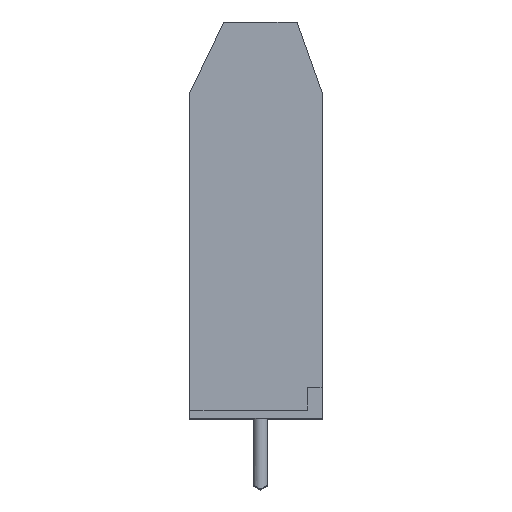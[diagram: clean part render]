
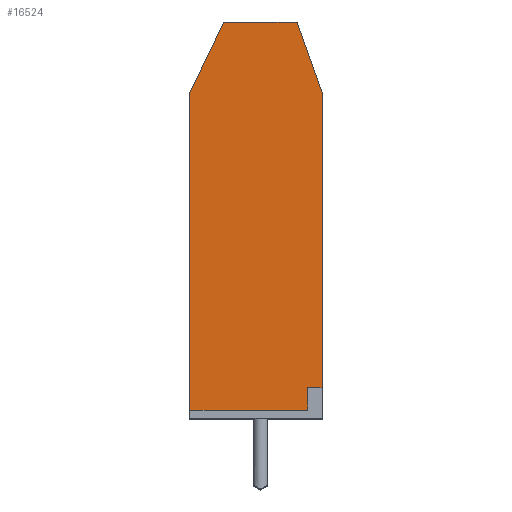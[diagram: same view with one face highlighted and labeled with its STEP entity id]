
A CAD part, top view. The second image highlights one B-rep face of the part: STEP entity #16524.
In plain terms, the highlighted planar face has unit normal (0, 0, 1).
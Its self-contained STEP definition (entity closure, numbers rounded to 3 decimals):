
#9 = CARTESIAN_POINT ( 'NONE',  ( 0., 2.1, 0. ) ) ;
#61 = CARTESIAN_POINT ( 'NONE',  ( 0., 22.2, 0. ) ) ;
#337 = CARTESIAN_POINT ( 'NONE',  ( -1.7, 27., 0. ) ) ;
#768 = FACE_OUTER_BOUND ( 'NONE', #13651, .T. ) ;
#2921 = AXIS2_PLACEMENT_3D ( 'NONE', #33127, #39832, #26832 ) ;
#3327 = CARTESIAN_POINT ( 'NONE',  ( -9., 22.2, 0. ) ) ;
#3462 = DIRECTION ( 'NONE',  ( -0.334, 0.943, 0. ) ) ;
#3484 = EDGE_CURVE ( 'NONE', #21469, #20846, #28913, .T. ) ;
#4519 = ORIENTED_EDGE ( 'NONE', *, *, #39110, .T. ) ;
#4555 = VECTOR ( 'NONE', #6882, 1000. ) ;
#4976 = LINE ( 'NONE', #9, #23868 ) ;
#5146 = CARTESIAN_POINT ( 'NONE',  ( -9., 22.2, 0. ) ) ;
#5214 = CARTESIAN_POINT ( 'NONE',  ( -6.7, 27., 0. ) ) ;
#5828 = ORIENTED_EDGE ( 'NONE', *, *, #31208, .T. ) ;
#5829 = CARTESIAN_POINT ( 'NONE',  ( -0.989, 2.1, 0. ) ) ;
#6120 = VERTEX_POINT ( 'NONE', #28858 ) ;
#6389 = EDGE_CURVE ( 'NONE', #21469, #6120, #4976, .T. ) ;
#6672 = ORIENTED_EDGE ( 'NONE', *, *, #29794, .T. ) ;
#6882 = DIRECTION ( 'NONE',  ( -0.432, -0.902, 0. ) ) ;
#7226 = VERTEX_POINT ( 'NONE', #39065 ) ;
#7296 = ORIENTED_EDGE ( 'NONE', *, *, #6389, .T. ) ;
#8449 = CARTESIAN_POINT ( 'NONE',  ( 0., 0.567, 0. ) ) ;
#11561 = PLANE ( 'NONE',  #2921 ) ;
#12189 = DIRECTION ( 'NONE',  ( 0., -1., 0. ) ) ;
#12548 = ORIENTED_EDGE ( 'NONE', *, *, #15639, .T. ) ;
#12620 = CARTESIAN_POINT ( 'NONE',  ( -0.989, 0.567, 0. ) ) ;
#13214 = CARTESIAN_POINT ( 'NONE',  ( -1.7, 27., 0. ) ) ;
#13651 = EDGE_LOOP ( 'NONE', ( #26006, #7296, #27009, #12548, #22901, #4519, #5828, #6672 ) ) ;
#15639 = EDGE_CURVE ( 'NONE', #7226, #38007, #24195, .T. ) ;
#16524 = ADVANCED_FACE ( 'NONE', ( #768 ), #11561, .F. ) ;
#17904 = VERTEX_POINT ( 'NONE', #5146 ) ;
#18793 = VERTEX_POINT ( 'NONE', #22438 ) ;
#19118 = VECTOR ( 'NONE', #23129, 1000. ) ;
#19859 = CARTESIAN_POINT ( 'NONE',  ( -0.989, 2.1, 0. ) ) ;
#20246 = LINE ( 'NONE', #8449, #38221 ) ;
#20846 = VERTEX_POINT ( 'NONE', #12620 ) ;
#21226 = LINE ( 'NONE', #5214, #31901 ) ;
#21469 = VERTEX_POINT ( 'NONE', #19859 ) ;
#21840 = DIRECTION ( 'NONE',  ( 0., 1., 0. ) ) ;
#21919 = DIRECTION ( 'NONE',  ( 1., 0., 0. ) ) ;
#22438 = CARTESIAN_POINT ( 'NONE',  ( -6.7, 27., 0. ) ) ;
#22901 = ORIENTED_EDGE ( 'NONE', *, *, #36743, .T. ) ;
#23129 = DIRECTION ( 'NONE',  ( 0., -1., 0. ) ) ;
#23868 = VECTOR ( 'NONE', #21919, 1000. ) ;
#23952 = LINE ( 'NONE', #35221, #19118 ) ;
#24195 = LINE ( 'NONE', #337, #31039 ) ;
#25532 = CARTESIAN_POINT ( 'NONE',  ( -9., 0.567, 0. ) ) ;
#25897 = LINE ( 'NONE', #3327, #4555 ) ;
#26006 = ORIENTED_EDGE ( 'NONE', *, *, #3484, .F. ) ;
#26713 = DIRECTION ( 'NONE',  ( 1., 0., 0. ) ) ;
#26832 = DIRECTION ( 'NONE',  ( -1., 0., 0. ) ) ;
#27009 = ORIENTED_EDGE ( 'NONE', *, *, #35492, .T. ) ;
#28858 = CARTESIAN_POINT ( 'NONE',  ( 0., 2.1, 0. ) ) ;
#28913 = LINE ( 'NONE', #5829, #32866 ) ;
#29794 = EDGE_CURVE ( 'NONE', #36253, #20846, #20246, .T. ) ;
#31039 = VECTOR ( 'NONE', #3462, 1000. ) ;
#31208 = EDGE_CURVE ( 'NONE', #17904, #36253, #23952, .T. ) ;
#31901 = VECTOR ( 'NONE', #33307, 1000. ) ;
#32866 = VECTOR ( 'NONE', #12189, 1000. ) ;
#33127 = CARTESIAN_POINT ( 'NONE',  ( 0., 14.3, 0. ) ) ;
#33307 = DIRECTION ( 'NONE',  ( -1., 0., 0. ) ) ;
#35221 = CARTESIAN_POINT ( 'NONE',  ( -9., 14.3, 0. ) ) ;
#35492 = EDGE_CURVE ( 'NONE', #6120, #7226, #36678, .T. ) ;
#36253 = VERTEX_POINT ( 'NONE', #25532 ) ;
#36678 = LINE ( 'NONE', #61, #38165 ) ;
#36743 = EDGE_CURVE ( 'NONE', #38007, #18793, #21226, .T. ) ;
#38007 = VERTEX_POINT ( 'NONE', #13214 ) ;
#38165 = VECTOR ( 'NONE', #21840, 1000. ) ;
#38221 = VECTOR ( 'NONE', #26713, 1000. ) ;
#39065 = CARTESIAN_POINT ( 'NONE',  ( 0., 22.2, 0. ) ) ;
#39110 = EDGE_CURVE ( 'NONE', #18793, #17904, #25897, .T. ) ;
#39832 = DIRECTION ( 'NONE',  ( 0., 0., -1. ) ) ;
